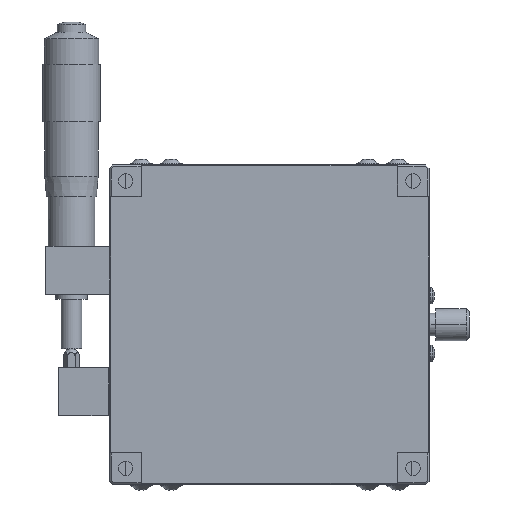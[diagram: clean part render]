
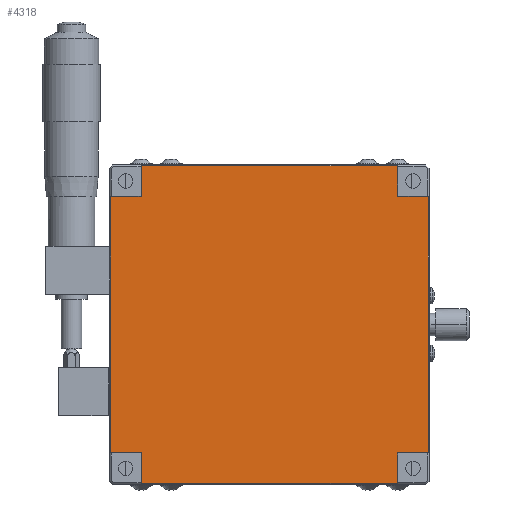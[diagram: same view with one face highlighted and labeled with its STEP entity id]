
A CAD part, front view. The second image highlights one B-rep face of the part: STEP entity #4318.
In plain terms, the highlighted planar face has unit normal (0, -1, 0).
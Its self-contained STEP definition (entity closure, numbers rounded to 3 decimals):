
#2373 = AXIS2_PLACEMENT_3D ( 'NONE', #8881, #8886, #8887 ) ;
#4318 = ADVANCED_FACE ( 'NONE', ( #8884 ), #8879, .T. ) ;
#4361 = EDGE_CURVE ( 'NONE', #7316, #7313, #9051, .T. ) ;
#4364 = EDGE_CURVE ( 'NONE', #7313, #7320, #9075, .T. ) ;
#4366 = EDGE_CURVE ( 'NONE', #7320, #7321, #9079, .T. ) ;
#4368 = EDGE_CURVE ( 'NONE', #7321, #7315, #9084, .T. ) ;
#4370 = EDGE_CURVE ( 'NONE', #7315, #7317, #9104, .T. ) ;
#4372 = EDGE_CURVE ( 'NONE', #7317, #7323, #9110, .T. ) ;
#4374 = EDGE_CURVE ( 'NONE', #7323, #7322, #9090, .T. ) ;
#4375 = EDGE_CURVE ( 'NONE', #7322, #7319, #9119, .T. ) ;
#4378 = EDGE_CURVE ( 'NONE', #7319, #7327, #9114, .T. ) ;
#4380 = EDGE_CURVE ( 'NONE', #7327, #7328, #9123, .T. ) ;
#4381 = EDGE_CURVE ( 'NONE', #7328, #7329, #9136, .T. ) ;
#4383 = EDGE_CURVE ( 'NONE', #7329, #7316, #9127, .T. ) ;
#5456 = CARTESIAN_POINT ( 'NONE',  ( 10., 0., 145.142 ) ) ;
#5458 = CARTESIAN_POINT ( 'NONE',  ( 10., 0., 65.142 ) ) ;
#5459 = CARTESIAN_POINT ( 'NONE',  ( 10., 0., 154.842 ) ) ;
#5460 = CARTESIAN_POINT ( 'NONE',  ( 10., 0., 55.442 ) ) ;
#5462 = CARTESIAN_POINT ( 'NONE',  ( 99.7, 0., 65.142 ) ) ;
#5463 = CARTESIAN_POINT ( 'NONE',  ( 0.3, 0., 145.142 ) ) ;
#5464 = CARTESIAN_POINT ( 'NONE',  ( 0.3, 0., 65.142 ) ) ;
#5465 = CARTESIAN_POINT ( 'NONE',  ( 90., 0., 65.142 ) ) ;
#5466 = CARTESIAN_POINT ( 'NONE',  ( 90., 0., 55.442 ) ) ;
#5470 = CARTESIAN_POINT ( 'NONE',  ( 99.7, 0., 145.142 ) ) ;
#5471 = CARTESIAN_POINT ( 'NONE',  ( 90., 0., 145.142 ) ) ;
#5472 = CARTESIAN_POINT ( 'NONE',  ( 90., 0., 154.842 ) ) ;
#7313 = VERTEX_POINT ( 'NONE', #5456 ) ;
#7315 = VERTEX_POINT ( 'NONE', #5458 ) ;
#7316 = VERTEX_POINT ( 'NONE', #5459 ) ;
#7317 = VERTEX_POINT ( 'NONE', #5460 ) ;
#7319 = VERTEX_POINT ( 'NONE', #5462 ) ;
#7320 = VERTEX_POINT ( 'NONE', #5463 ) ;
#7321 = VERTEX_POINT ( 'NONE', #5464 ) ;
#7322 = VERTEX_POINT ( 'NONE', #5465 ) ;
#7323 = VERTEX_POINT ( 'NONE', #5466 ) ;
#7327 = VERTEX_POINT ( 'NONE', #5470 ) ;
#7328 = VERTEX_POINT ( 'NONE', #5471 ) ;
#7329 = VERTEX_POINT ( 'NONE', #5472 ) ;
#8205 = VECTOR ( 'NONE', #9088, 1000. ) ;
#8206 = VECTOR ( 'NONE', #9080, 1000. ) ;
#8208 = VECTOR ( 'NONE', #9094, 1000. ) ;
#8210 = VECTOR ( 'NONE', #9100, 1000. ) ;
#8212 = VECTOR ( 'NONE', #9118, 1000. ) ;
#8214 = VECTOR ( 'NONE', #9106, 1000. ) ;
#8216 = VECTOR ( 'NONE', #9112, 1000. ) ;
#8219 = VECTOR ( 'NONE', #9121, 1000. ) ;
#8221 = VECTOR ( 'NONE', #9130, 1000. ) ;
#8222 = VECTOR ( 'NONE', #9135, 1000. ) ;
#8224 = VECTOR ( 'NONE', #9144, 1000. ) ;
#8225 = VECTOR ( 'NONE', #9138, 1000. ) ;
#8879 = PLANE ( 'NONE',  #2373 ) ;
#8881 = CARTESIAN_POINT ( 'NONE',  ( 90., 0., 46.449 ) ) ;
#8884 = FACE_OUTER_BOUND ( 'NONE', #11475, .T. ) ;
#8886 = DIRECTION ( 'NONE',  ( 0., -1., 0. ) ) ;
#8887 = DIRECTION ( 'NONE',  ( 0., 0., -1. ) ) ;
#9051 = LINE ( 'NONE', #9078, #8206 ) ;
#9075 = LINE ( 'NONE', #9087, #8205 ) ;
#9078 = CARTESIAN_POINT ( 'NONE',  ( 10., 0., 46.449 ) ) ;
#9079 = LINE ( 'NONE', #9093, #8208 ) ;
#9080 = DIRECTION ( 'NONE',  ( 0., 0., -1. ) ) ;
#9084 = LINE ( 'NONE', #9099, #8210 ) ;
#9087 = CARTESIAN_POINT ( 'NONE',  ( 90., 0., 145.142 ) ) ;
#9088 = DIRECTION ( 'NONE',  ( -1., 0., 0. ) ) ;
#9090 = LINE ( 'NONE', #9117, #8212 ) ;
#9093 = CARTESIAN_POINT ( 'NONE',  ( 0.3, 0., 46.449 ) ) ;
#9094 = DIRECTION ( 'NONE',  ( 0., 0., -1. ) ) ;
#9099 = CARTESIAN_POINT ( 'NONE',  ( 90., 0., 65.142 ) ) ;
#9100 = DIRECTION ( 'NONE',  ( 1., 0., 0. ) ) ;
#9104 = LINE ( 'NONE', #9105, #8214 ) ;
#9105 = CARTESIAN_POINT ( 'NONE',  ( 10., 0., 46.449 ) ) ;
#9106 = DIRECTION ( 'NONE',  ( 0., 0., -1. ) ) ;
#9110 = LINE ( 'NONE', #9111, #8216 ) ;
#9111 = CARTESIAN_POINT ( 'NONE',  ( 90., 0., 55.442 ) ) ;
#9112 = DIRECTION ( 'NONE',  ( 1., 0., 0. ) ) ;
#9114 = LINE ( 'NONE', #9129, #8221 ) ;
#9117 = CARTESIAN_POINT ( 'NONE',  ( 90., 0., 46.449 ) ) ;
#9118 = DIRECTION ( 'NONE',  ( 0., 0., 1. ) ) ;
#9119 = LINE ( 'NONE', #9120, #8219 ) ;
#9120 = CARTESIAN_POINT ( 'NONE',  ( 90., 0., 65.142 ) ) ;
#9121 = DIRECTION ( 'NONE',  ( 1., 0., 0. ) ) ;
#9123 = LINE ( 'NONE', #9134, #8222 ) ;
#9127 = LINE ( 'NONE', #9143, #8224 ) ;
#9129 = CARTESIAN_POINT ( 'NONE',  ( 99.7, 0., 46.449 ) ) ;
#9130 = DIRECTION ( 'NONE',  ( 0., 0., 1. ) ) ;
#9134 = CARTESIAN_POINT ( 'NONE',  ( 90., 0., 145.142 ) ) ;
#9135 = DIRECTION ( 'NONE',  ( -1., 0., 0. ) ) ;
#9136 = LINE ( 'NONE', #9137, #8225 ) ;
#9137 = CARTESIAN_POINT ( 'NONE',  ( 90., 0., 46.449 ) ) ;
#9138 = DIRECTION ( 'NONE',  ( 0., 0., 1. ) ) ;
#9143 = CARTESIAN_POINT ( 'NONE',  ( 90., 0., 154.842 ) ) ;
#9144 = DIRECTION ( 'NONE',  ( -1., 0., 0. ) ) ;
#11475 = EDGE_LOOP ( 'NONE', ( #14215, #14216, #14217, #14218, #14219, #14220, #14221, #14222, #14223, #14224, #14225, #14226 ) ) ;
#14215 = ORIENTED_EDGE ( 'NONE', *, *, #4381, .T. ) ;
#14216 = ORIENTED_EDGE ( 'NONE', *, *, #4383, .T. ) ;
#14217 = ORIENTED_EDGE ( 'NONE', *, *, #4361, .T. ) ;
#14218 = ORIENTED_EDGE ( 'NONE', *, *, #4364, .T. ) ;
#14219 = ORIENTED_EDGE ( 'NONE', *, *, #4366, .T. ) ;
#14220 = ORIENTED_EDGE ( 'NONE', *, *, #4368, .T. ) ;
#14221 = ORIENTED_EDGE ( 'NONE', *, *, #4370, .T. ) ;
#14222 = ORIENTED_EDGE ( 'NONE', *, *, #4372, .T. ) ;
#14223 = ORIENTED_EDGE ( 'NONE', *, *, #4374, .T. ) ;
#14224 = ORIENTED_EDGE ( 'NONE', *, *, #4375, .T. ) ;
#14225 = ORIENTED_EDGE ( 'NONE', *, *, #4378, .T. ) ;
#14226 = ORIENTED_EDGE ( 'NONE', *, *, #4380, .T. ) ;
